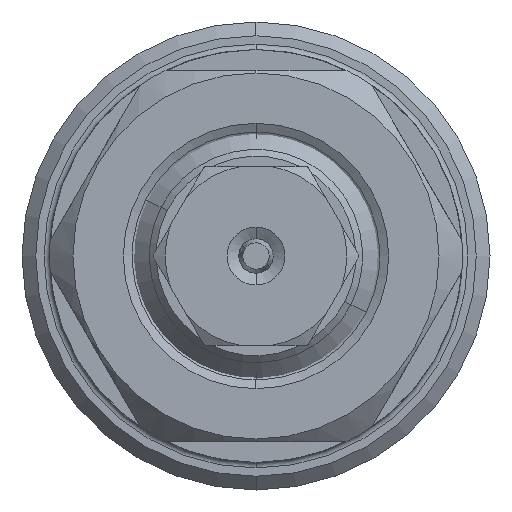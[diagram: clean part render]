
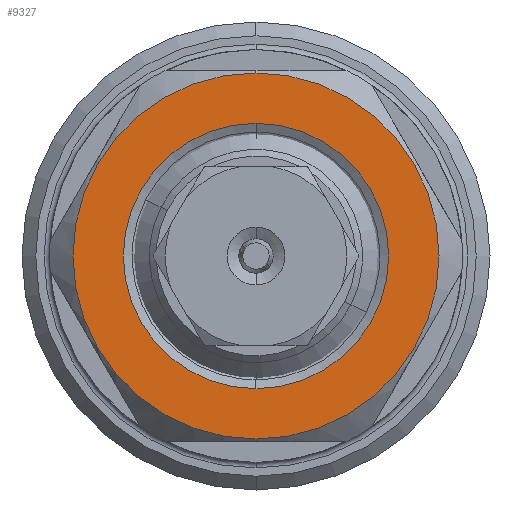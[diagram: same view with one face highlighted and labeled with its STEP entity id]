
A CAD part, left-side view. The second image highlights one B-rep face of the part: STEP entity #9327.
In plain terms, the highlighted planar face has unit normal (-1, 0, 0).
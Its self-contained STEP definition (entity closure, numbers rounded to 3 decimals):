
#27 = EDGE_CURVE ( 'NONE', #1980, #1981, #3376, .T. ) ;
#1151 = EDGE_LOOP ( 'NONE', ( #9396, #9397 ) ) ;
#1152 = EDGE_LOOP ( 'NONE', ( #9399, #9398 ) ) ;
#1980 = VERTEX_POINT ( 'NONE', #7429 ) ;
#1981 = VERTEX_POINT ( 'NONE', #7430 ) ;
#2022 = VERTEX_POINT ( 'NONE', #7471 ) ;
#2023 = VERTEX_POINT ( 'NONE', #7472 ) ;
#2813 = CARTESIAN_POINT ( 'NONE',  ( -88.7, 0., 0. ) ) ;
#2814 = DIRECTION ( 'NONE',  ( 1., 0., 0. ) ) ;
#2815 = DIRECTION ( 'NONE',  ( 0., 0., 1. ) ) ;
#3296 = EDGE_CURVE ( 'NONE', #1981, #1980, #5035, .T. ) ;
#3350 = EDGE_CURVE ( 'NONE', #2022, #2023, #9277, .T. ) ;
#3356 = EDGE_CURVE ( 'NONE', #2023, #2022, #9278, .T. ) ;
#3376 = CIRCLE ( 'NONE', #9637, 9.636 ) ;
#5035 = CIRCLE ( 'NONE', #8457, 9.636 ) ;
#7429 = CARTESIAN_POINT ( 'NONE',  ( -88.7, 0., -9.636 ) ) ;
#7430 = CARTESIAN_POINT ( 'NONE',  ( -88.7, 0., 9.636 ) ) ;
#7471 = CARTESIAN_POINT ( 'NONE',  ( -88.7, 0., -13.3 ) ) ;
#7472 = CARTESIAN_POINT ( 'NONE',  ( -88.7, 0., 13.3 ) ) ;
#8457 = AXIS2_PLACEMENT_3D ( 'NONE', #8814, #8815, #8816 ) ;
#8507 = AXIS2_PLACEMENT_3D ( 'NONE', #9023, #9027, #9028 ) ;
#8510 = AXIS2_PLACEMENT_3D ( 'NONE', #8970, #8977, #8978 ) ;
#8544 = FACE_BOUND ( 'NONE', #1151, .T. ) ;
#8548 = FACE_OUTER_BOUND ( 'NONE', #1152, .T. ) ;
#8550 = AXIS2_PLACEMENT_3D ( 'NONE', #9113, #9114, #9115 ) ;
#8814 = CARTESIAN_POINT ( 'NONE',  ( -88.7, 0., 0. ) ) ;
#8815 = DIRECTION ( 'NONE',  ( 1., 0., 0. ) ) ;
#8816 = DIRECTION ( 'NONE',  ( 0., 0., 1. ) ) ;
#8970 = CARTESIAN_POINT ( 'NONE',  ( -88.7, 0., 0. ) ) ;
#8977 = DIRECTION ( 'NONE',  ( 1., 0., 0. ) ) ;
#8978 = DIRECTION ( 'NONE',  ( 0., 0., -1. ) ) ;
#9023 = CARTESIAN_POINT ( 'NONE',  ( -88.7, 0., 0. ) ) ;
#9027 = DIRECTION ( 'NONE',  ( 1., 0., 0. ) ) ;
#9028 = DIRECTION ( 'NONE',  ( 0., 0., -1. ) ) ;
#9112 = PLANE ( 'NONE',  #8550 ) ;
#9113 = CARTESIAN_POINT ( 'NONE',  ( -88.7, 13.3, 0. ) ) ;
#9114 = DIRECTION ( 'NONE',  ( -1., 0., 0. ) ) ;
#9115 = DIRECTION ( 'NONE',  ( 0., 0., 1. ) ) ;
#9277 = CIRCLE ( 'NONE', #8510, 13.3 ) ;
#9278 = CIRCLE ( 'NONE', #8507, 13.3 ) ;
#9327 = ADVANCED_FACE ( 'NONE', ( #8544, #8548 ), #9112, .T. ) ;
#9396 = ORIENTED_EDGE ( 'NONE', *, *, #3296, .T. ) ;
#9397 = ORIENTED_EDGE ( 'NONE', *, *, #27, .T. ) ;
#9398 = ORIENTED_EDGE ( 'NONE', *, *, #3356, .F. ) ;
#9399 = ORIENTED_EDGE ( 'NONE', *, *, #3350, .F. ) ;
#9637 = AXIS2_PLACEMENT_3D ( 'NONE', #2813, #2814, #2815 ) ;
